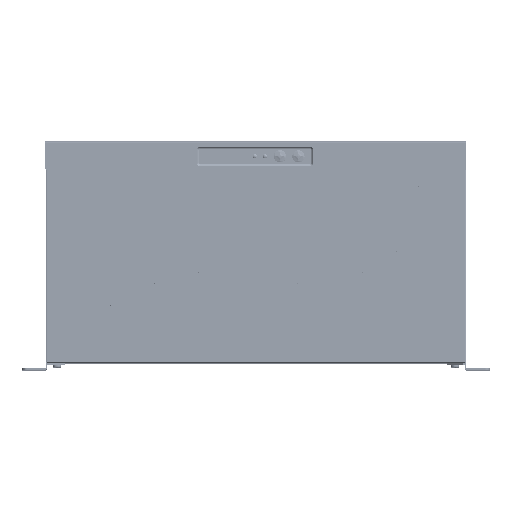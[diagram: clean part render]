
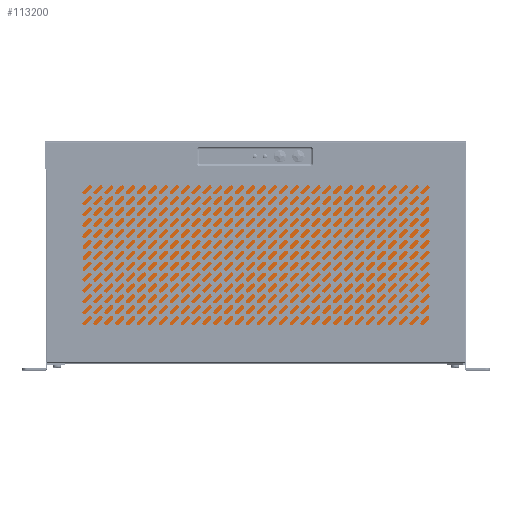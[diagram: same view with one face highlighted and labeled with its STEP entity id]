
A CAD part, top view. The second image highlights one B-rep face of the part: STEP entity #113200.
In plain terms, the highlighted planar face has unit normal (0, 0, 1).
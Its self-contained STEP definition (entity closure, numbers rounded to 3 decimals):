
#113121=DIRECTION('',(0.,1.,0.));
#113122=VECTOR('',#113121,125.);
#113123=CARTESIAN_POINT('',(141.,22.5,171.5));
#113124=LINE('',#113123,#113122);
#113129=DIRECTION('',(-1.,0.,0.));
#113130=VECTOR('',#113129,282.);
#113131=CARTESIAN_POINT('',(141.,147.5,171.5));
#113132=LINE('',#113131,#113130);
#113137=DIRECTION('',(0.,-1.,0.));
#113138=VECTOR('',#113137,125.);
#113139=CARTESIAN_POINT('',(-141.,147.5,171.5));
#113140=LINE('',#113139,#113138);
#113145=DIRECTION('',(1.,0.,0.));
#113146=VECTOR('',#113145,282.);
#113147=CARTESIAN_POINT('',(-141.,22.5,171.5));
#113148=LINE('',#113147,#113146);
#113169=CARTESIAN_POINT('',(141.,22.5,171.5));
#113170=CARTESIAN_POINT('',(141.,147.5,171.5));
#113171=VERTEX_POINT('',#113169);
#113172=VERTEX_POINT('',#113170);
#113173=CARTESIAN_POINT('',(-141.,22.5,171.5));
#113174=VERTEX_POINT('',#113173);
#113175=CARTESIAN_POINT('',(-141.,147.5,171.5));
#113176=VERTEX_POINT('',#113175);
#113185=CARTESIAN_POINT('',(0.,87.,171.5));
#113186=DIRECTION('',(0.,0.,-1.));
#113187=DIRECTION('',(-1.,0.,0.));
#113188=AXIS2_PLACEMENT_3D('',#113185,#113186,#113187);
#113189=PLANE('',#113188);
#113191=ORIENTED_EDGE('',*,*,#113190,.F.);
#113193=ORIENTED_EDGE('',*,*,#113192,.F.);
#113195=ORIENTED_EDGE('',*,*,#113194,.F.);
#113197=ORIENTED_EDGE('',*,*,#113196,.F.);
#113198=EDGE_LOOP('',(#113191,#113193,#113195,#113197));
#113199=FACE_OUTER_BOUND('',#113198,.F.);
#113200=ADVANCED_FACE('',(#113199),#113189,.F.);
#113190=EDGE_CURVE('',#113171,#113172,#113124,.T.);
#113192=EDGE_CURVE('',#113174,#113171,#113148,.T.);
#113194=EDGE_CURVE('',#113176,#113174,#113140,.T.);
#113196=EDGE_CURVE('',#113172,#113176,#113132,.T.);
